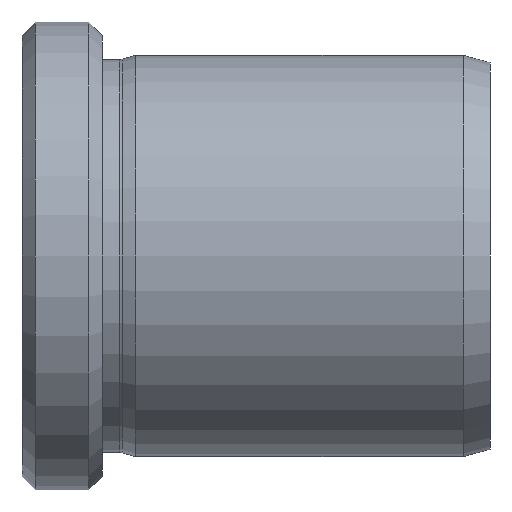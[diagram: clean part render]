
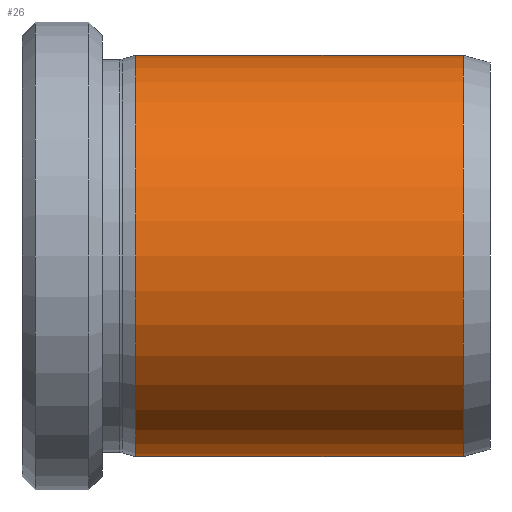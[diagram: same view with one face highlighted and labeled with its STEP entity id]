
A CAD part, front view. The second image highlights one B-rep face of the part: STEP entity #26.
In plain terms, the highlighted cylindrical face has radius 15 mm (diameter 30 mm), a partial arc.
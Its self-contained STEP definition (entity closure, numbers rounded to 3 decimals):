
#7 = CARTESIAN_POINT ( 'NONE',  ( 43.8, 0., 15. ) ) ;
#9 = AXIS2_PLACEMENT_3D ( 'NONE', #208, #556, #259 ) ;
#26 = ADVANCED_FACE ( 'NONE', ( #109 ), #161, .T. ) ;
#31 = CARTESIAN_POINT ( 'NONE',  ( 19.3, 0., 15. ) ) ;
#54 = VERTEX_POINT ( 'NONE', #7 ) ;
#57 = CARTESIAN_POINT ( 'NONE',  ( 19.3, 0., -15. ) ) ;
#74 = AXIS2_PLACEMENT_3D ( 'NONE', #286, #573, #229 ) ;
#79 = CARTESIAN_POINT ( 'NONE',  ( 0., 0., 15. ) ) ;
#106 = VERTEX_POINT ( 'NONE', #57 ) ;
#109 = FACE_OUTER_BOUND ( 'NONE', #314, .T. ) ;
#138 = VECTOR ( 'NONE', #234, 1000. ) ;
#148 = EDGE_CURVE ( 'NONE', #440, #106, #635, .T. ) ;
#161 = CYLINDRICAL_SURFACE ( 'NONE', #198, 15. ) ;
#163 = VERTEX_POINT ( 'NONE', #31 ) ;
#167 = ORIENTED_EDGE ( 'NONE', *, *, #621, .T. ) ;
#172 = DIRECTION ( 'NONE',  ( -1., 0., 0. ) ) ;
#178 = CARTESIAN_POINT ( 'NONE',  ( 0., 0., 0. ) ) ;
#198 = AXIS2_PLACEMENT_3D ( 'NONE', #178, #172, #221 ) ;
#208 = CARTESIAN_POINT ( 'NONE',  ( 43.8, 0., 0. ) ) ;
#221 = DIRECTION ( 'NONE',  ( 0., 0., 1. ) ) ;
#222 = EDGE_CURVE ( 'NONE', #106, #163, #357, .T. ) ;
#229 = DIRECTION ( 'NONE',  ( 0., 0., 1. ) ) ;
#234 = DIRECTION ( 'NONE',  ( -1., 0., 0. ) ) ;
#259 = DIRECTION ( 'NONE',  ( 0., 0., 1. ) ) ;
#286 = CARTESIAN_POINT ( 'NONE',  ( 19.3, 0., 0. ) ) ;
#314 = EDGE_LOOP ( 'NONE', ( #641, #167, #469, #379 ) ) ;
#326 = CIRCLE ( 'NONE', #9, 15. ) ;
#336 = CARTESIAN_POINT ( 'NONE',  ( 0., 0., -15. ) ) ;
#357 = CIRCLE ( 'NONE', #74, 15. ) ;
#379 = ORIENTED_EDGE ( 'NONE', *, *, #222, .F. ) ;
#386 = CARTESIAN_POINT ( 'NONE',  ( 43.8, 0., -15. ) ) ;
#412 = VECTOR ( 'NONE', #628, 1000. ) ;
#440 = VERTEX_POINT ( 'NONE', #386 ) ;
#467 = LINE ( 'NONE', #79, #412 ) ;
#469 = ORIENTED_EDGE ( 'NONE', *, *, #502, .T. ) ;
#502 = EDGE_CURVE ( 'NONE', #54, #163, #467, .T. ) ;
#556 = DIRECTION ( 'NONE',  ( -1., 0., 0. ) ) ;
#573 = DIRECTION ( 'NONE',  ( -1., 0., 0. ) ) ;
#621 = EDGE_CURVE ( 'NONE', #440, #54, #326, .T. ) ;
#628 = DIRECTION ( 'NONE',  ( -1., 0., 0. ) ) ;
#635 = LINE ( 'NONE', #336, #138 ) ;
#641 = ORIENTED_EDGE ( 'NONE', *, *, #148, .F. ) ;
